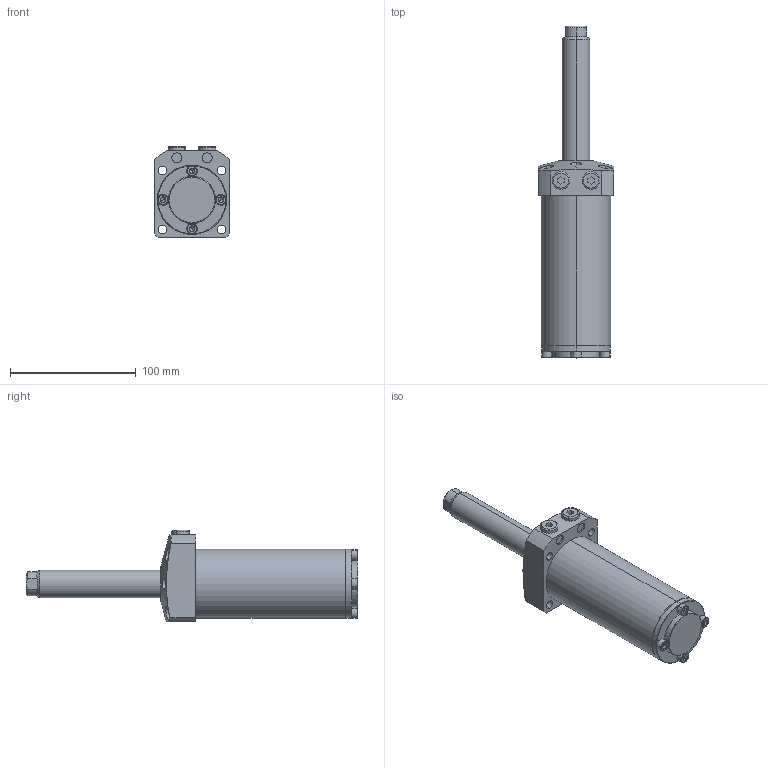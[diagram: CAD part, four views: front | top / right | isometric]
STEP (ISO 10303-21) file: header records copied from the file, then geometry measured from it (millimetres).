
FILE_DESCRIPTION (( 'STEP AP203' ), '1' );
FILE_NAME ('680550-CA-100.step', '2016-11-02T03:23:21', ( 'wxp' ), ( '' ), 'SwSTEP 2.0', 'SolidWorks 2011', '' );
FILE_SCHEMA (( 'CONFIG_CONTROL_DESIGN' ));
Length unit declared in the file: millimetre
Products named in the file (7): 680550-CA-100; 葩璃 68055-CA-51-6^680550-CA-100; 葩璃 68055-CA-51-5^680550-CA-100; 葩璃 68055-CA-51-4^680550-CA-100; 葩璃 68055-CA-51-3^680550-CA-100; 葩璃 68055-CA-100-2^680550-CA-100; 葩璃 68055-CA-100-1^680550-CA-100
Assembly tree (13 placements, depth 2):
  680550-CA-100
    葩璃 68055-CA-51-3^680550-CA-100
    葩璃 68055-CA-100-2^680550-CA-100
    葩璃 68055-CA-51-4^680550-CA-100  x4
    葩璃 68055-CA-51-5^680550-CA-100  x4
    葩璃 68055-CA-51-6^680550-CA-100  x2
    葩璃 68055-CA-100-1^680550-CA-100
Bounding box: 60 x 264 x 72.5 mm (x, y, z)
Volume: 408465.8 mm3; surface area: 64397.6 mm2
Topology: 13 solids, 13 shells, 415 faces, 797 edges, 428 vertices
Faces by surface type: plane 174, cone 120, cylinder 105, torus 16
Entity records: 7011 total; most frequent: CARTESIAN_POINT 1679, DIRECTION 1017, ORIENTED_EDGE 830, AXIS2_PLACEMENT_3D 425, EDGE_CURVE 415, VERTEX_POINT 246, EDGE_LOOP 241, CIRCLE 206
